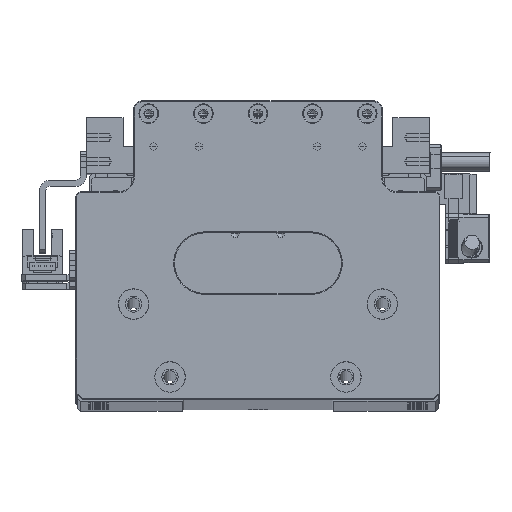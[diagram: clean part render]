
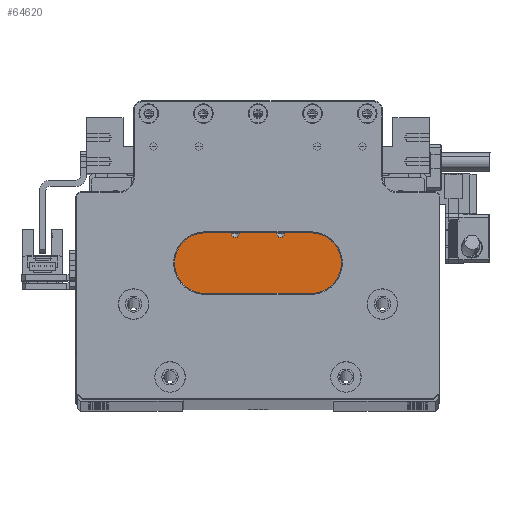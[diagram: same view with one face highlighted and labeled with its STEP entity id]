
A CAD part, top view. The second image highlights one B-rep face of the part: STEP entity #64620.
In plain terms, the highlighted planar face has unit normal (0, 0, 1).
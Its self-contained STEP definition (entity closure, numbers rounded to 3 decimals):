
#519 = ORIENTED_EDGE ( 'NONE', *, *, #56109, .T. ) ;
#671 = EDGE_CURVE ( 'NONE', #58185, #111433, #106065, .T. ) ;
#6562 = CARTESIAN_POINT ( 'NONE',  ( -23.132, -9.023, 340. ) ) ;
#8162 = CARTESIAN_POINT ( 'NONE',  ( 25.168, -9.023, 340. ) ) ;
#8235 = EDGE_CURVE ( 'NONE', #101227, #121433, #91344, .T. ) ;
#8431 = ORIENTED_EDGE ( 'NONE', *, *, #107501, .T. ) ;
#9349 = CARTESIAN_POINT ( 'NONE',  ( -13.382, -17.023, 340. ) ) ;
#12525 = EDGE_LOOP ( 'NONE', ( #68998, #519 ) ) ;
#13170 = VECTOR ( 'NONE', #70083, 1000. ) ;
#16294 = LINE ( 'NONE', #99736, #13170 ) ;
#17922 = DIRECTION ( 'NONE',  ( 0., 0., -1. ) ) ;
#18890 = CIRCLE ( 'NONE', #102787, 1.25 ) ;
#19185 = ORIENTED_EDGE ( 'NONE', *, *, #671, .T. ) ;
#19594 = FACE_BOUND ( 'NONE', #24938, .T. ) ;
#20153 = CARTESIAN_POINT ( 'NONE',  ( -34.632, -49.023, 340. ) ) ;
#22753 = FACE_BOUND ( 'NONE', #12525, .T. ) ;
#23624 = CARTESIAN_POINT ( 'NONE',  ( -34.432, -17.023, 340. ) ) ;
#24938 = EDGE_LOOP ( 'NONE', ( #80725, #122826 ) ) ;
#26384 = VECTOR ( 'NONE', #48433, 1000. ) ;
#27229 = DIRECTION ( 'NONE',  ( 0., 0., -1. ) ) ;
#28437 = CARTESIAN_POINT ( 'NONE',  ( 25.168, -49.023, 340. ) ) ;
#29966 = ORIENTED_EDGE ( 'NONE', *, *, #105445, .T. ) ;
#30888 = CARTESIAN_POINT ( 'NONE',  ( -34.432, -49.023, 340. ) ) ;
#31570 = DIRECTION ( 'NONE',  ( 0., 0., -1. ) ) ;
#35003 = AXIS2_PLACEMENT_3D ( 'NONE', #91351, #31570, #101412 ) ;
#35071 = VECTOR ( 'NONE', #80793, 1000. ) ;
#35260 = EDGE_CURVE ( 'NONE', #91439, #63800, #51981, .T. ) ;
#37182 = CARTESIAN_POINT ( 'NONE',  ( 25.168, -17.023, 340. ) ) ;
#40243 = EDGE_LOOP ( 'NONE', ( #49619, #76898, #8431, #54700, #101093, #29966, #19185, #79580 ) ) ;
#42888 = DIRECTION ( 'NONE',  ( 0., 0., -1. ) ) ;
#45466 = VERTEX_POINT ( 'NONE', #108135 ) ;
#47011 = PLANE ( 'NONE',  #64078 ) ;
#47423 = CARTESIAN_POINT ( 'NONE',  ( -4.632, -9.023, 340. ) ) ;
#48433 = DIRECTION ( 'NONE',  ( -1., 0., 0. ) ) ;
#48604 = CARTESIAN_POINT ( 'NONE',  ( 13.868, -17.023, 340. ) ) ;
#49619 = ORIENTED_EDGE ( 'NONE', *, *, #86436, .T. ) ;
#50562 = VERTEX_POINT ( 'NONE', #74183 ) ;
#51483 = VERTEX_POINT ( 'NONE', #23624 ) ;
#51904 = CARTESIAN_POINT ( 'NONE',  ( 4.118, -17.023, 340. ) ) ;
#51981 = CIRCLE ( 'NONE', #90069, 1.25 ) ;
#53111 = CIRCLE ( 'NONE', #101467, 1.25 ) ;
#54700 = ORIENTED_EDGE ( 'NONE', *, *, #95659, .T. ) ;
#56109 = EDGE_CURVE ( 'NONE', #63800, #91439, #64030, .T. ) ;
#58185 = VERTEX_POINT ( 'NONE', #37182 ) ;
#62644 = EDGE_CURVE ( 'NONE', #111433, #45466, #106539, .T. ) ;
#63320 = VERTEX_POINT ( 'NONE', #30888 ) ;
#63528 = DIRECTION ( 'NONE',  ( -1., 0., 0. ) ) ;
#63800 = VERTEX_POINT ( 'NONE', #9349 ) ;
#64030 = CIRCLE ( 'NONE', #35003, 1.25 ) ;
#64078 = AXIS2_PLACEMENT_3D ( 'NONE', #47423, #127356, #67482 ) ;
#64620 = ADVANCED_FACE ( 'NONE', ( #92969, #19594, #22753 ), #47011, .T. ) ;
#64829 = VECTOR ( 'NONE', #86454, 1000. ) ;
#66765 = LINE ( 'NONE', #8162, #123081 ) ;
#67482 = DIRECTION ( 'NONE',  ( 1., 0., 0. ) ) ;
#68001 = DIRECTION ( 'NONE',  ( 0., 1., 0. ) ) ;
#68998 = ORIENTED_EDGE ( 'NONE', *, *, #35260, .T. ) ;
#69101 = CARTESIAN_POINT ( 'NONE',  ( -23.132, -9.223, 340. ) ) ;
#70083 = DIRECTION ( 'NONE',  ( 0., -1., 0. ) ) ;
#70768 = CARTESIAN_POINT ( 'NONE',  ( -4.632, -17.023, 340. ) ) ;
#73551 = CARTESIAN_POINT ( 'NONE',  ( -4.632, -9.223, 340. ) ) ;
#74183 = CARTESIAN_POINT ( 'NONE',  ( 1.618, -17.023, 340. ) ) ;
#74946 = EDGE_CURVE ( 'NONE', #63320, #110569, #77132, .T. ) ;
#76898 = ORIENTED_EDGE ( 'NONE', *, *, #8235, .T. ) ;
#77132 = LINE ( 'NONE', #20153, #120934 ) ;
#77710 = CARTESIAN_POINT ( 'NONE',  ( 2.868, -17.023, 340. ) ) ;
#77869 = EDGE_CURVE ( 'NONE', #81846, #50562, #18890, .T. ) ;
#78116 = CARTESIAN_POINT ( 'NONE',  ( -4.632, -17.023, 340. ) ) ;
#79580 = ORIENTED_EDGE ( 'NONE', *, *, #62644, .T. ) ;
#79927 = VECTOR ( 'NONE', #88664, 1000. ) ;
#80725 = ORIENTED_EDGE ( 'NONE', *, *, #77869, .T. ) ;
#80793 = DIRECTION ( 'NONE',  ( -1., 0., 0. ) ) ;
#81846 = VERTEX_POINT ( 'NONE', #51904 ) ;
#86436 = EDGE_CURVE ( 'NONE', #45466, #101227, #117487, .T. ) ;
#86454 = DIRECTION ( 'NONE',  ( 0., -1., 0. ) ) ;
#86992 = CARTESIAN_POINT ( 'NONE',  ( 2.868, -17.023, 340. ) ) ;
#87728 = DIRECTION ( 'NONE',  ( 1., 0., 0. ) ) ;
#88664 = DIRECTION ( 'NONE',  ( 0., 1., 0. ) ) ;
#90069 = AXIS2_PLACEMENT_3D ( 'NONE', #102633, #42888, #112781 ) ;
#91295 = LINE ( 'NONE', #70768, #35071 ) ;
#91344 = LINE ( 'NONE', #6562, #64829 ) ;
#91351 = CARTESIAN_POINT ( 'NONE',  ( -12.132, -17.023, 340. ) ) ;
#91439 = VERTEX_POINT ( 'NONE', #128748 ) ;
#92969 = FACE_OUTER_BOUND ( 'NONE', #40243, .T. ) ;
#93968 = VECTOR ( 'NONE', #63528, 1000. ) ;
#95659 = EDGE_CURVE ( 'NONE', #51483, #63320, #16294, .T. ) ;
#97016 = DIRECTION ( 'NONE',  ( 1., 0., 0. ) ) ;
#99736 = CARTESIAN_POINT ( 'NONE',  ( -34.432, -9.023, 340. ) ) ;
#100016 = DIRECTION ( 'NONE',  ( 1., 0., 0. ) ) ;
#101093 = ORIENTED_EDGE ( 'NONE', *, *, #74946, .T. ) ;
#101227 = VERTEX_POINT ( 'NONE', #69101 ) ;
#101412 = DIRECTION ( 'NONE',  ( 1., 0., 0. ) ) ;
#101467 = AXIS2_PLACEMENT_3D ( 'NONE', #86992, #27229, #97016 ) ;
#102633 = CARTESIAN_POINT ( 'NONE',  ( -12.132, -17.023, 340. ) ) ;
#102787 = AXIS2_PLACEMENT_3D ( 'NONE', #77710, #17922, #87728 ) ;
#105445 = EDGE_CURVE ( 'NONE', #110569, #58185, #66765, .T. ) ;
#106065 = LINE ( 'NONE', #78116, #26384 ) ;
#106539 = LINE ( 'NONE', #128492, #79927 ) ;
#107501 = EDGE_CURVE ( 'NONE', #121433, #51483, #91295, .T. ) ;
#108135 = CARTESIAN_POINT ( 'NONE',  ( 13.868, -9.223, 340. ) ) ;
#110569 = VERTEX_POINT ( 'NONE', #28437 ) ;
#111433 = VERTEX_POINT ( 'NONE', #48604 ) ;
#112781 = DIRECTION ( 'NONE',  ( 1., 0., 0. ) ) ;
#117487 = LINE ( 'NONE', #73551, #93968 ) ;
#120934 = VECTOR ( 'NONE', #100016, 1000. ) ;
#121061 = EDGE_CURVE ( 'NONE', #50562, #81846, #53111, .T. ) ;
#121433 = VERTEX_POINT ( 'NONE', #125464 ) ;
#122826 = ORIENTED_EDGE ( 'NONE', *, *, #121061, .T. ) ;
#123081 = VECTOR ( 'NONE', #68001, 1000. ) ;
#125464 = CARTESIAN_POINT ( 'NONE',  ( -23.132, -17.023, 340. ) ) ;
#127356 = DIRECTION ( 'NONE',  ( 0., 0., 1. ) ) ;
#128492 = CARTESIAN_POINT ( 'NONE',  ( 13.868, -9.023, 340. ) ) ;
#128748 = CARTESIAN_POINT ( 'NONE',  ( -10.882, -17.023, 340. ) ) ;
